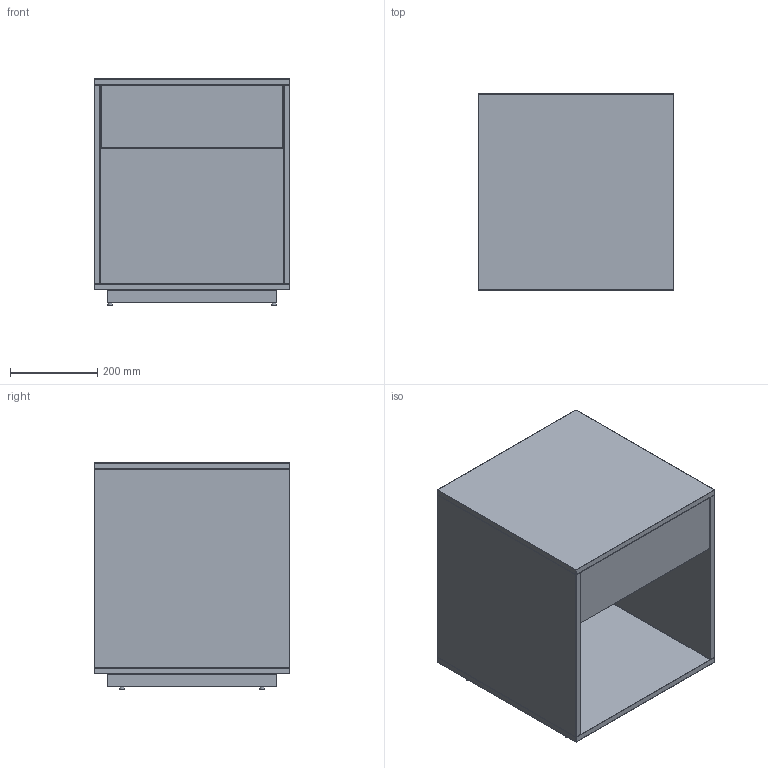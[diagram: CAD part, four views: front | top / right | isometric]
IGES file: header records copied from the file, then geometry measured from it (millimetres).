
Global section: file name: C:\Users\l.marzoli\Desktop\3D_2024\x-web\ECHO-bedside-table\3D_ECHO-bedside-table.igs; native system: Rhinoceros ( Aug 11 2021 ); preprocessor: Trout Lake IGES 012 Aug 11 2021; date: 240429.103255; units: millimetre
Bounding box: 450 x 450 x 520 mm (x, y, z)
Surface area: 3117821.1 mm2 (no closed solid volume)
Topology: 0 solids, 0 shells, 256 faces, 1264 edges, 1256 vertices
Faces by surface type: bspline 256
